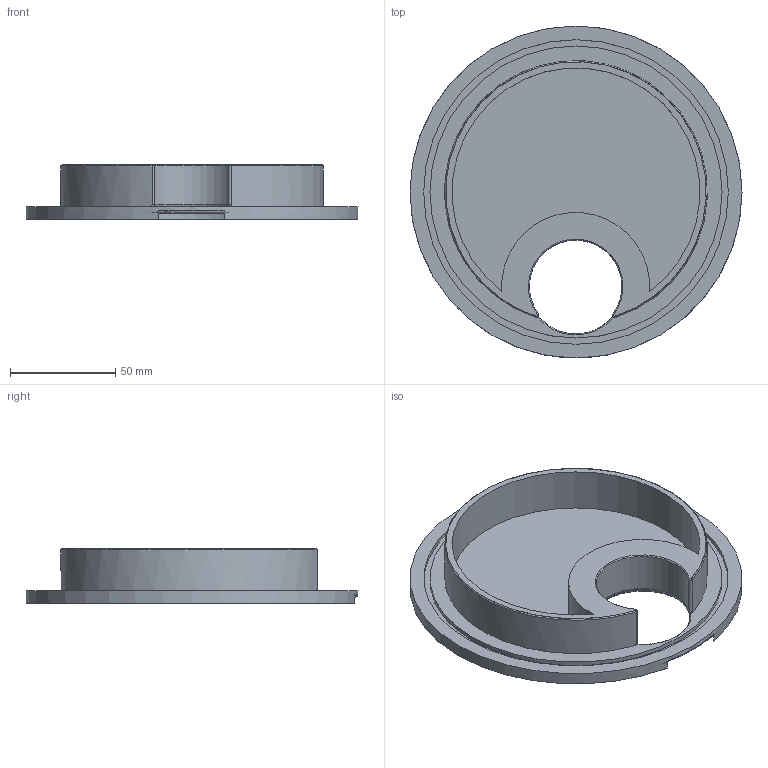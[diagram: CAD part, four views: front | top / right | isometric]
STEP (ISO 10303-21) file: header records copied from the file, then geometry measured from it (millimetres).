
FILE_DESCRIPTION(/* description */ (''),/* implementation_level */ '2;1');
FILE_NAME(/* name */ 'Waschbecken_Halter oben v2.step',/* time_stamp */ '2025-12-19T20:33:30+01:00',/* author */ (''),/* organization */ (''),/* preprocessor_version */ 'ST-DEVELOPER v20.1',/* originating_system */ 'Autodesk Translation Framework v14.21.0.0',/* authorisation */ '');
FILE_SCHEMA (('AUTOMOTIVE_DESIGN { 1 0 10303 214 3 1 1 }'));
Length unit declared in the file: millimetre
Products named in the file (1): Waschbecken_Halter oben v2
Bounding box: 158 x 158 x 26 mm (x, y, z)
Volume: 140988.1 mm3; surface area: 59156.8 mm2
Topology: 1 solids, 1 shells, 31 faces, 71 edges, 45 vertices
Faces by surface type: cylinder 12, plane 7, cone 6, torus 4, bspline 2
Full cylindrical faces by diameter (mm): 139 x1, 145 x1, 158 x1
Entity records: 1102 total; most frequent: CARTESIAN_POINT 367, DIRECTION 151, ORIENTED_EDGE 142, EDGE_CURVE 71, AXIS2_PLACEMENT_3D 67, VERTEX_POINT 45, CIRCLE 37, EDGE_LOOP 36
